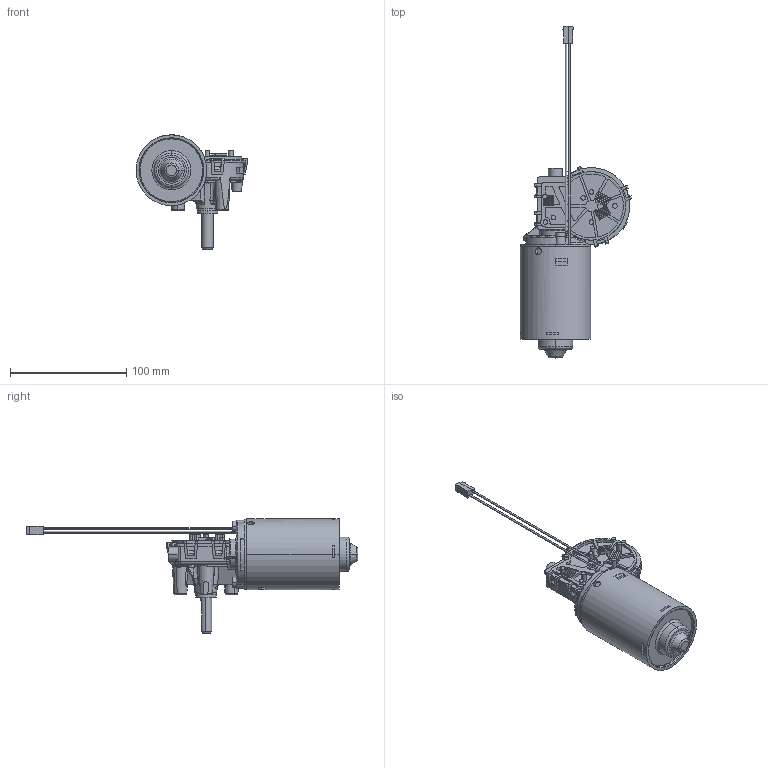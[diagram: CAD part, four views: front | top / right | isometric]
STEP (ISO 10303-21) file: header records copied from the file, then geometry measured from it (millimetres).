
FILE_DESCRIPTION((''),'2;1');
FILE_NAME('F006B20101_SW0005','2014-09-11T',('neh1cob'),(''),'PRO/ENGINEER BY PARAMETRIC TECHNOLOGY CORPORATION, 2011490','PRO/ENGINEER BY PARAMETRIC TECHNOLOGY CORPORATION, 2011490','');
FILE_SCHEMA(('AUTOMOTIVE_DESIGN_CC2 { 1 2 10303 214 -1 1 5 2 }'));
Products named in the file (1): F006B20101_SW0005
Bounding box: 96.47 x 286 x 98.5 mm (x, y, z)
Volume: 356458.2 mm3; surface area: 55495.7 mm2
Topology: 2 solids, 2 shells, 1003 faces, 2612 edges, 1628 vertices
Faces by surface type: plane 399, cylinder 262, bspline 164, torus 123, cone 38, sphere 17
Entity records: 46724 total; most frequent: CARTESIAN_POINT 16173, ORIENTED_EDGE 5208, DIRECTION 4599, EDGE_CURVE 2604, AXIS2_PLACEMENT_3D 1712, VERTEX_POINT 1628, VECTOR 1175, LINE 1175
